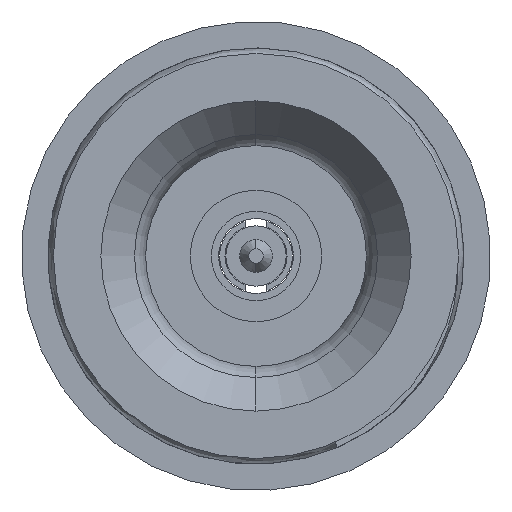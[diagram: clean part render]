
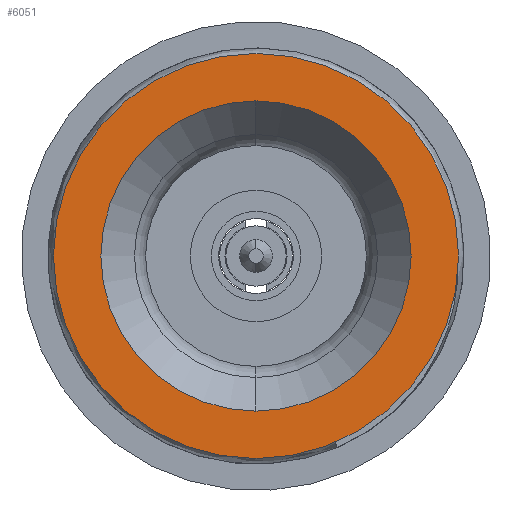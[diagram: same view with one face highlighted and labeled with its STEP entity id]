
A CAD part, left-side view. The second image highlights one B-rep face of the part: STEP entity #6051.
In plain terms, the highlighted planar face has unit normal (-1, 0, 0).
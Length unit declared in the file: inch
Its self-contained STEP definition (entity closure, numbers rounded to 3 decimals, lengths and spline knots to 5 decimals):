
#460 = CIRCLE ( 'NONE', #7521, 0.0555 ) ;
#638 = DIRECTION ( 'NONE',  ( 0., 0., 1. ) ) ;
#840 = AXIS2_PLACEMENT_3D ( 'NONE', #2109, #8782, #3068 ) ;
#842 = EDGE_CURVE ( 'NONE', #11831, #11184, #2780, .T. ) ;
#1298 = EDGE_LOOP ( 'NONE', ( #9066, #4108 ) ) ;
#1395 = AXIS2_PLACEMENT_3D ( 'NONE', #12082, #6360, #638 ) ;
#1461 = CARTESIAN_POINT ( 'NONE',  ( 0., 0., -0.0425 ) ) ;
#1654 = CARTESIAN_POINT ( 'NONE',  ( 0., 0., 0. ) ) ;
#1905 = VERTEX_POINT ( 'NONE', #6800 ) ;
#2109 = CARTESIAN_POINT ( 'NONE',  ( 0., 0., 0. ) ) ;
#2127 = PLANE ( 'NONE',  #6870 ) ;
#2228 = DIRECTION ( 'NONE',  ( -1., 0., 0. ) ) ;
#2277 = CIRCLE ( 'NONE', #8399, 0.0555 ) ;
#2618 = DIRECTION ( 'NONE',  ( 0., 0., 1. ) ) ;
#2780 = CIRCLE ( 'NONE', #1395, 0.0425 ) ;
#3068 = DIRECTION ( 'NONE',  ( 0., 0., 1. ) ) ;
#3398 = FACE_BOUND ( 'NONE', #1298, .T. ) ;
#4035 = DIRECTION ( 'NONE',  ( 1., 0., 0. ) ) ;
#4108 = ORIENTED_EDGE ( 'NONE', *, *, #12345, .F. ) ;
#5271 = VERTEX_POINT ( 'NONE', #11589 ) ;
#6051 = ADVANCED_FACE ( 'NONE', ( #3398, #8783 ), #2127, .F. ) ;
#6360 = DIRECTION ( 'NONE',  ( -1., 0., 0. ) ) ;
#6800 = CARTESIAN_POINT ( 'NONE',  ( 0., 0., -0.0555 ) ) ;
#6870 = AXIS2_PLACEMENT_3D ( 'NONE', #9735, #4035, #10727 ) ;
#7521 = AXIS2_PLACEMENT_3D ( 'NONE', #1654, #8327, #2618 ) ;
#7953 = CARTESIAN_POINT ( 'NONE',  ( 0., 0., 0. ) ) ;
#8121 = CARTESIAN_POINT ( 'NONE',  ( 0., 0., 0.0425 ) ) ;
#8327 = DIRECTION ( 'NONE',  ( -1., 0., 0. ) ) ;
#8399 = AXIS2_PLACEMENT_3D ( 'NONE', #7953, #2228, #8905 ) ;
#8675 = ORIENTED_EDGE ( 'NONE', *, *, #9234, .T. ) ;
#8782 = DIRECTION ( 'NONE',  ( -1., 0., 0. ) ) ;
#8783 = FACE_OUTER_BOUND ( 'NONE', #11174, .T. ) ;
#8905 = DIRECTION ( 'NONE',  ( 0., 0., 1. ) ) ;
#9066 = ORIENTED_EDGE ( 'NONE', *, *, #842, .F. ) ;
#9134 = CIRCLE ( 'NONE', #840, 0.0425 ) ;
#9234 = EDGE_CURVE ( 'NONE', #1905, #5271, #2277, .T. ) ;
#9549 = EDGE_CURVE ( 'NONE', #5271, #1905, #460, .T. ) ;
#9735 = CARTESIAN_POINT ( 'NONE',  ( 0., 0.0425, 0. ) ) ;
#10343 = ORIENTED_EDGE ( 'NONE', *, *, #9549, .T. ) ;
#10727 = DIRECTION ( 'NONE',  ( 0., 0., -1. ) ) ;
#11174 = EDGE_LOOP ( 'NONE', ( #10343, #8675 ) ) ;
#11184 = VERTEX_POINT ( 'NONE', #1461 ) ;
#11589 = CARTESIAN_POINT ( 'NONE',  ( 0., 0., 0.0555 ) ) ;
#11831 = VERTEX_POINT ( 'NONE', #8121 ) ;
#12082 = CARTESIAN_POINT ( 'NONE',  ( 0., 0., 0. ) ) ;
#12345 = EDGE_CURVE ( 'NONE', #11184, #11831, #9134, .T. ) ;
